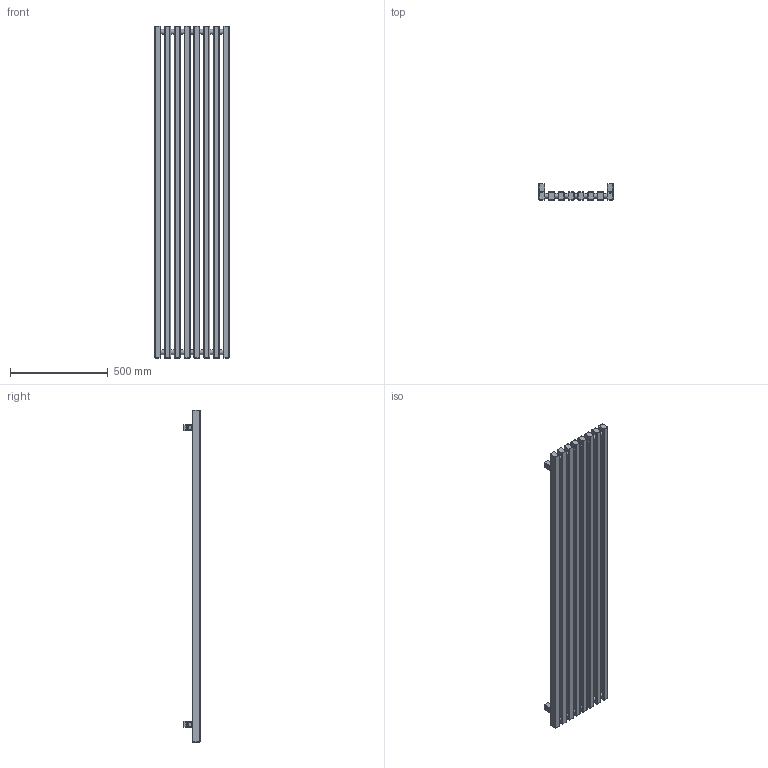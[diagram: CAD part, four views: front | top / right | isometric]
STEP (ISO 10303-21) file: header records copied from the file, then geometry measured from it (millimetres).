
FILE_DESCRIPTION((''),'2;1');
FILE_NAME('Z:\R\G\P\RGP029 - Grzejnik Triga ( ZET)\Work\Inventor\Triga v1.1\Marketing\AutoCad 3D\G-TR-XX-MK-XX-17-48-ZX.stp','2012-07-26T13:02:29',('DawPi'),(''),'Autodesk Inventor 2012','Autodesk Inventor 2012','');
FILE_SCHEMA(('AUTOMOTIVE_DESIGN { 1 0 10303 214 1 1 1 1 }'));
Length unit declared in the file: millimetre
Products named in the file (3): G-TR-XX-MK-XX-17-48-ZX; MMT42
Assembly tree (5 placements, depth 2):
  G-TR-XX-MK-XX-17-48-ZX
    G-TR-XX-MK-XX-17-48-ZX
    MMT42  x4
Bounding box: 386 x 82 x 1700 mm (x, y, z)
Volume: 16487502.8 mm3; surface area: 1892334.8 mm2
Topology: 5 solids, 5 shells, 429 faces, 969 edges, 587 vertices
Faces by surface type: cylinder 169, plane 159, bspline 64, cone 24, torus 13
Full cylindrical faces by diameter (mm): 4.134 x4, 4.509 x4, 10 x4, 11.445 x1, 12 x4, 18.631 x2, 25 x14
Entity records: 12871 total; most frequent: CARTESIAN_POINT 6442, DIRECTION 1426, ORIENTED_EDGE 1212, EDGE_CURVE 606, AXIS2_PLACEMENT_3D 586, VERTEX_POINT 378, EDGE_LOOP 372, CIRCLE 348
